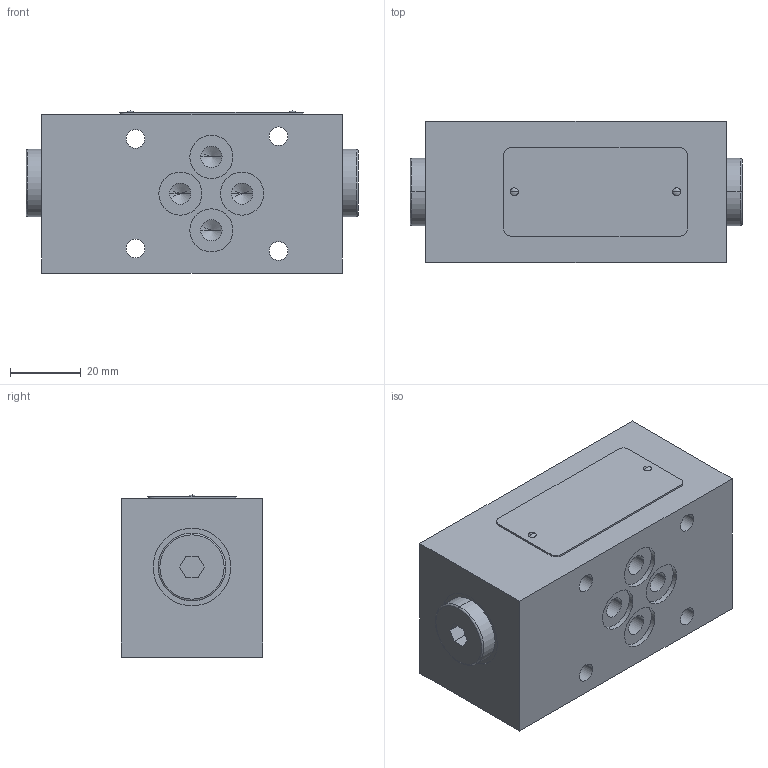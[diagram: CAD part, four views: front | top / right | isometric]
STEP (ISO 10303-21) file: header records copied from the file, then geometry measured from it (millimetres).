
FILE_DESCRIPTION((''),'2;1');
FILE_NAME('TV2_062','2011-03-14T',('tvatras'),(''),'PRO/ENGINEER BY PARAMETRIC TECHNOLOGY CORPORATION, 2010180','PRO/ENGINEER BY PARAMETRIC TECHNOLOGY CORPORATION, 2010180','');
FILE_SCHEMA(('CONFIG_CONTROL_DESIGN'));
Length unit declared in the file: millimetre
Products named in the file (1): TV2_062
Bounding box: 94 x 40 x 45.92 mm (x, y, z)
Volume: 149880.7 mm3; surface area: 22818.4 mm2
Topology: 1 solids, 1 shells, 101 faces, 246 edges, 150 vertices
Faces by surface type: cylinder 44, plane 33, cone 16, torus 4, sphere 4
Entity records: 2903 total; most frequent: DIRECTION 538, CARTESIAN_POINT 476, ORIENTED_EDGE 448, EDGE_CURVE 224, AXIS2_PLACEMENT_3D 208, VERTEX_POINT 146, EDGE_LOOP 130, VECTOR 122
